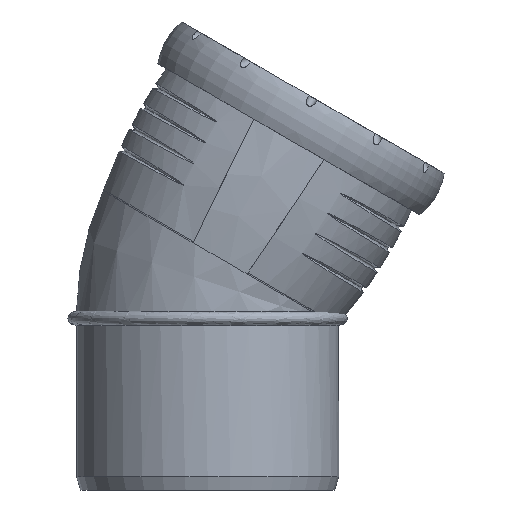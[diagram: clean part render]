
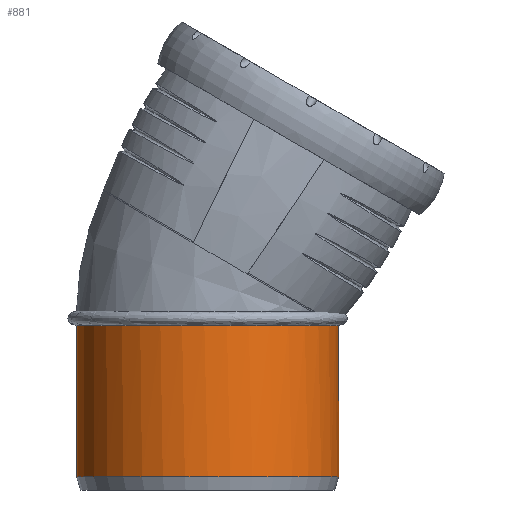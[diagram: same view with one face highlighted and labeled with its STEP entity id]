
A CAD part, front view. The second image highlights one B-rep face of the part: STEP entity #881.
In plain terms, the highlighted cylindrical face has radius 55.1 mm (diameter 110.2 mm), a full revolution.
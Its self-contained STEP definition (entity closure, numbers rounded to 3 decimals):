
#34=FACE_BOUND('',#145,.T.);
#60=CYLINDRICAL_SURFACE('',#948,55.1);
#91=FACE_OUTER_BOUND('',#144,.T.);
#144=EDGE_LOOP('',(#583,#584,#585,#586));
#145=EDGE_LOOP('',(#587));
#214=CIRCLE('',#937,55.1);
#218=CIRCLE('',#949,55.1);
#219=CIRCLE('',#950,55.1);
#220=CIRCLE('',#951,55.1);
#221=CIRCLE('',#952,55.1);
#342=VERTEX_POINT('',#1311);
#344=VERTEX_POINT('',#1348);
#351=VERTEX_POINT('',#1489);
#352=VERTEX_POINT('',#1491);
#353=VERTEX_POINT('',#1494);
#437=EDGE_CURVE('',#342,#344,#214,.T.);
#448=EDGE_CURVE('',#351,#342,#218,.T.);
#449=EDGE_CURVE('',#344,#352,#219,.T.);
#450=EDGE_CURVE('',#352,#351,#220,.T.);
#451=EDGE_CURVE('',#353,#353,#221,.T.);
#583=ORIENTED_EDGE('',*,*,#448,.T.);
#584=ORIENTED_EDGE('',*,*,#437,.T.);
#585=ORIENTED_EDGE('',*,*,#449,.T.);
#586=ORIENTED_EDGE('',*,*,#450,.T.);
#587=ORIENTED_EDGE('',*,*,#451,.F.);
#881=ADVANCED_FACE('',(#91,#34),#60,.T.);
#937=AXIS2_PLACEMENT_3D('',#1383,#1029,#1030);
#948=AXIS2_PLACEMENT_3D('',#1488,#1051,#1052);
#949=AXIS2_PLACEMENT_3D('',#1490,#1053,#1054);
#950=AXIS2_PLACEMENT_3D('',#1492,#1055,#1056);
#951=AXIS2_PLACEMENT_3D('',#1493,#1057,#1058);
#952=AXIS2_PLACEMENT_3D('',#1495,#1059,#1060);
#1029=DIRECTION('center_axis',(0.,0.,-1.));
#1030=DIRECTION('ref_axis',(1.,0.,0.));
#1051=DIRECTION('center_axis',(0.,0.,-1.));
#1052=DIRECTION('ref_axis',(0.,1.,0.));
#1053=DIRECTION('center_axis',(0.,0.,-1.));
#1054=DIRECTION('ref_axis',(1.,0.,0.));
#1055=DIRECTION('center_axis',(0.,0.,-1.));
#1056=DIRECTION('ref_axis',(1.,0.,0.));
#1057=DIRECTION('center_axis',(0.,0.,-1.));
#1058=DIRECTION('ref_axis',(1.,0.,0.));
#1059=DIRECTION('center_axis',(0.,0.,-1.));
#1060=DIRECTION('ref_axis',(1.,0.,0.));
#1311=CARTESIAN_POINT('',(53.757,12.09,69.1));
#1348=CARTESIAN_POINT('',(53.757,-12.09,69.1));
#1383=CARTESIAN_POINT('Origin',(0.,0.,69.1));
#1488=CARTESIAN_POINT('Origin',(0.,0.,37.3));
#1489=CARTESIAN_POINT('',(0.,55.1,69.1));
#1490=CARTESIAN_POINT('Origin',(0.,0.,69.1));
#1491=CARTESIAN_POINT('',(-55.1,0.,69.1));
#1492=CARTESIAN_POINT('Origin',(0.,0.,69.1));
#1493=CARTESIAN_POINT('Origin',(0.,0.,69.1));
#1494=CARTESIAN_POINT('',(0.,55.1,5.5));
#1495=CARTESIAN_POINT('Origin',(0.,0.,5.5));
